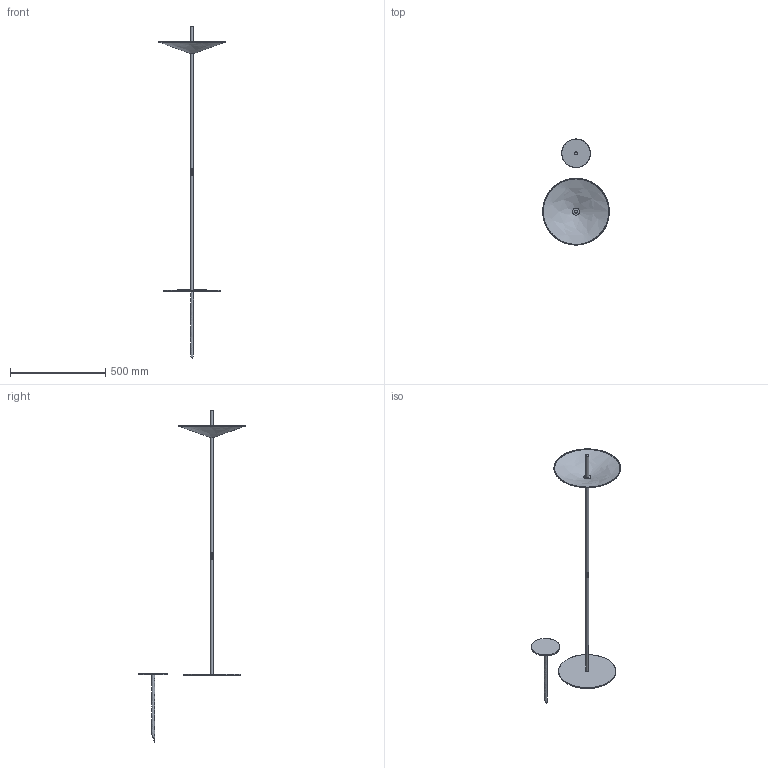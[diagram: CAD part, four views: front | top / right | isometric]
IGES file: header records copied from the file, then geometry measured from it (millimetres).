
Global section: file name: /Users/carolinacolombo/Desktop/Danese/Sito/3D mancanti/Ori_originali/Ori_Floor standing_Water bath.igs; native system: Rhinoceros ( Dec  3 2024 ); preprocessor: Trout Lake IGES 012 Dec  3 2024; date: 261006.141823; units: millimetre
Bounding box: 349.99 x 558.65 x 1741.75 mm (x, y, z)
Surface area: 486845.4 mm2 (no closed solid volume)
Topology: 0 solids, 0 shells, 70 faces, 2713 edges, 2691 vertices
Faces by surface type: bspline 70
